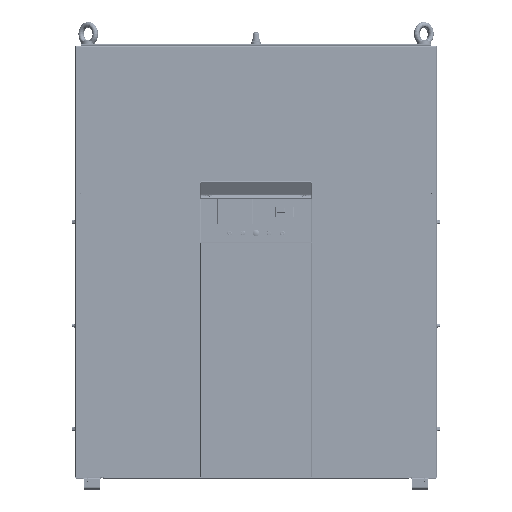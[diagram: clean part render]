
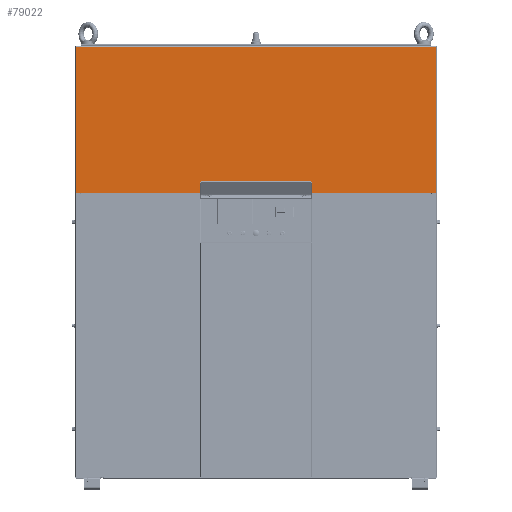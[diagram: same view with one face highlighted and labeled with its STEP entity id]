
A CAD part, top view. The second image highlights one B-rep face of the part: STEP entity #79022.
In plain terms, the highlighted planar face has unit normal (0, 0, 1).
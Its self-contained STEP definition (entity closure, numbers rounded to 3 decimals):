
#5788 = CARTESIAN_POINT ( 'NONE',  ( -445., 1096.5, 0. ) ) ;
#25033 = EDGE_LOOP ( 'NONE', ( #204724, #743610, #123981, #173268 ) ) ;
#35338 = CARTESIAN_POINT ( 'NONE',  ( -445., -1096.5, 0. ) ) ;
#59988 = AXIS2_PLACEMENT_3D ( 'NONE', #148562, #682292, #765098 ) ;
#79022 = ADVANCED_FACE ( 'NONE', ( #419662 ), #87206, .F. ) ;
#87206 = PLANE ( 'NONE',  #59988 ) ;
#123981 = ORIENTED_EDGE ( 'NONE', *, *, #414542, .T. ) ;
#124073 = VECTOR ( 'NONE', #416846, 1000. ) ;
#126809 = DIRECTION ( 'NONE',  ( 0., 1., 0. ) ) ;
#148562 = CARTESIAN_POINT ( 'NONE',  ( 0., 0., 0. ) ) ;
#173268 = ORIENTED_EDGE ( 'NONE', *, *, #335895, .T. ) ;
#202862 = LINE ( 'NONE', #281384, #768642 ) ;
#204724 = ORIENTED_EDGE ( 'NONE', *, *, #213633, .T. ) ;
#213633 = EDGE_CURVE ( 'NONE', #258685, #752488, #586152, .T. ) ;
#256460 = VERTEX_POINT ( 'NONE', #35338 ) ;
#258685 = VERTEX_POINT ( 'NONE', #779404 ) ;
#281384 = CARTESIAN_POINT ( 'NONE',  ( -445., -1096.5, 0. ) ) ;
#290665 = CARTESIAN_POINT ( 'NONE',  ( -445., 1096.5, 0. ) ) ;
#335895 = EDGE_CURVE ( 'NONE', #256460, #258685, #202862, .T. ) ;
#347969 = CARTESIAN_POINT ( 'NONE',  ( -445., -1096.5, 0. ) ) ;
#363081 = CARTESIAN_POINT ( 'NONE',  ( 445., 1096.5, 0. ) ) ;
#414542 = EDGE_CURVE ( 'NONE', #440630, #256460, #754738, .T. ) ;
#416846 = DIRECTION ( 'NONE',  ( -1., 0., 0. ) ) ;
#419662 = FACE_OUTER_BOUND ( 'NONE', #25033, .T. ) ;
#440630 = VERTEX_POINT ( 'NONE', #290665 ) ;
#548269 = DIRECTION ( 'NONE',  ( 1., 0., 0. ) ) ;
#554674 = VECTOR ( 'NONE', #614900, 1000. ) ;
#563900 = EDGE_CURVE ( 'NONE', #752488, #440630, #675084, .T. ) ;
#586152 = LINE ( 'NONE', #717369, #684900 ) ;
#614900 = DIRECTION ( 'NONE',  ( 0., -1., 0. ) ) ;
#675084 = LINE ( 'NONE', #5788, #124073 ) ;
#682292 = DIRECTION ( 'NONE',  ( 0., 0., -1. ) ) ;
#684900 = VECTOR ( 'NONE', #126809, 1000. ) ;
#717369 = CARTESIAN_POINT ( 'NONE',  ( 445., -1096.5, 0. ) ) ;
#743610 = ORIENTED_EDGE ( 'NONE', *, *, #563900, .T. ) ;
#752488 = VERTEX_POINT ( 'NONE', #363081 ) ;
#754738 = LINE ( 'NONE', #347969, #554674 ) ;
#765098 = DIRECTION ( 'NONE',  ( -1., 0., 0. ) ) ;
#768642 = VECTOR ( 'NONE', #548269, 1000. ) ;
#779404 = CARTESIAN_POINT ( 'NONE',  ( 445., -1096.5, 0. ) ) ;
